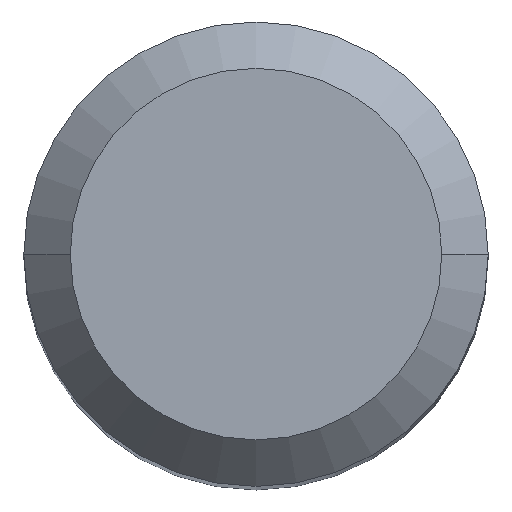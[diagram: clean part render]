
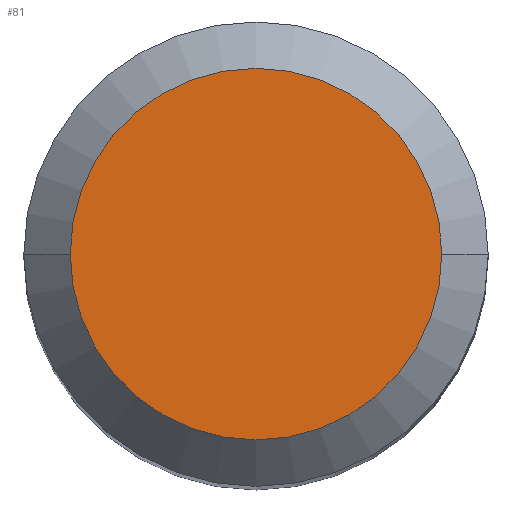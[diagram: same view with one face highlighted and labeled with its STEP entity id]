
A CAD part, top view. The second image highlights one B-rep face of the part: STEP entity #81.
In plain terms, the highlighted planar face has unit normal (0, 0, 1).
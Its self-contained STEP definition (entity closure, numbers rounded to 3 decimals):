
#6 = DIRECTION ( 'NONE',  ( 0., 0., -1. ) ) ;
#33 = AXIS2_PLACEMENT_3D ( 'NONE', #458, #111, #414 ) ;
#56 = VERTEX_POINT ( 'NONE', #419 ) ;
#58 = DIRECTION ( 'NONE',  ( -1., 0., 0. ) ) ;
#61 = AXIS2_PLACEMENT_3D ( 'NONE', #365, #6, #58 ) ;
#81 = ADVANCED_FACE ( 'NONE', ( #326 ), #197, .T. ) ;
#107 = EDGE_CURVE ( 'NONE', #468, #56, #260, .T. ) ;
#108 = EDGE_LOOP ( 'NONE', ( #241, #412 ) ) ;
#111 = DIRECTION ( 'NONE',  ( 0., 0., -1. ) ) ;
#163 = CIRCLE ( 'NONE', #61, 3.2 ) ;
#180 = EDGE_CURVE ( 'NONE', #56, #468, #163, .T. ) ;
#197 = PLANE ( 'NONE',  #229 ) ;
#229 = AXIS2_PLACEMENT_3D ( 'NONE', #238, #269, #331 ) ;
#238 = CARTESIAN_POINT ( 'NONE',  ( 0., 3.2, 0. ) ) ;
#241 = ORIENTED_EDGE ( 'NONE', *, *, #107, .F. ) ;
#260 = CIRCLE ( 'NONE', #33, 3.2 ) ;
#269 = DIRECTION ( 'NONE',  ( 0., 0., 1. ) ) ;
#326 = FACE_OUTER_BOUND ( 'NONE', #108, .T. ) ;
#331 = DIRECTION ( 'NONE',  ( 1., 0., 0. ) ) ;
#365 = CARTESIAN_POINT ( 'NONE',  ( 0., 0., 0. ) ) ;
#370 = CARTESIAN_POINT ( 'NONE',  ( -3.2, 0., 0. ) ) ;
#412 = ORIENTED_EDGE ( 'NONE', *, *, #180, .F. ) ;
#414 = DIRECTION ( 'NONE',  ( -1., 0., 0. ) ) ;
#419 = CARTESIAN_POINT ( 'NONE',  ( 3.2, 0., 0. ) ) ;
#458 = CARTESIAN_POINT ( 'NONE',  ( 0., 0., 0. ) ) ;
#468 = VERTEX_POINT ( 'NONE', #370 ) ;
